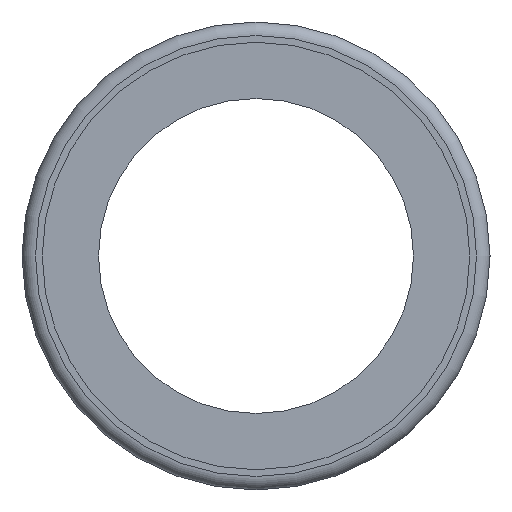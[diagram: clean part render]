
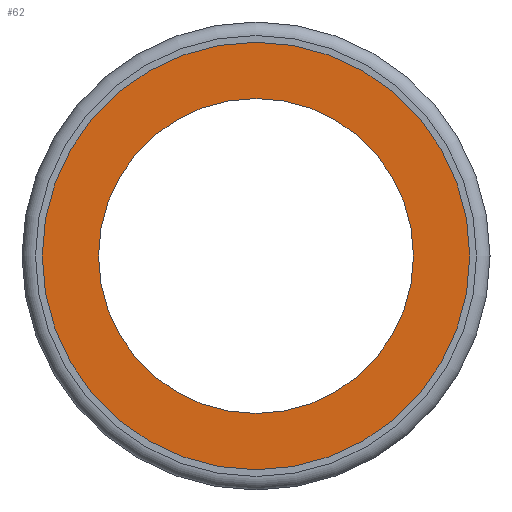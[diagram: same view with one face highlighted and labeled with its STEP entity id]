
A CAD part, left-side view. The second image highlights one B-rep face of the part: STEP entity #62.
In plain terms, the highlighted planar face has unit normal (-1, 0, 0).
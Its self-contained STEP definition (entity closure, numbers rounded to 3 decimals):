
#62 = ADVANCED_FACE( '', ( #135, #136 ), #137, .T. );
#135 = FACE_BOUND( '', #214, .T. );
#136 = FACE_OUTER_BOUND( '', #215, .T. );
#137 = PLANE( '', #216 );
#214 = EDGE_LOOP( '', ( #307 ) );
#215 = EDGE_LOOP( '', ( #308 ) );
#216 = AXIS2_PLACEMENT_3D( '', #309, #310, #311 );
#307 = ORIENTED_EDGE( '', *, *, #359, .F. );
#308 = ORIENTED_EDGE( '', *, *, #364, .T. );
#309 = CARTESIAN_POINT( '', ( 6.75, 20.625, 0. ) );
#310 = DIRECTION( '', ( -1., 0., 0. ) );
#311 = DIRECTION( '', ( 0., 1., 0. ) );
#359 = EDGE_CURVE( '', #398, #398, #399, .T. );
#364 = EDGE_CURVE( '', #406, #406, #407, .T. );
#398 = VERTEX_POINT( '', #452 );
#399 = CIRCLE( '', #453, 17.5 );
#406 = VERTEX_POINT( '', #460 );
#407 = CIRCLE( '', #461, 23.75 );
#452 = CARTESIAN_POINT( '', ( 6.75, 0., 17.5 ) );
#453 = AXIS2_PLACEMENT_3D( '', #507, #508, #509 );
#460 = CARTESIAN_POINT( '', ( 6.75, 0., 23.75 ) );
#461 = AXIS2_PLACEMENT_3D( '', #516, #517, #518 );
#507 = CARTESIAN_POINT( '', ( 6.75, 0., 0. ) );
#508 = DIRECTION( '', ( -1., 0., 0. ) );
#509 = DIRECTION( '', ( 0., 0., 1. ) );
#516 = CARTESIAN_POINT( '', ( 6.75, 0., 0. ) );
#517 = DIRECTION( '', ( -1., 0., 0. ) );
#518 = DIRECTION( '', ( 0., 0., 1. ) );
